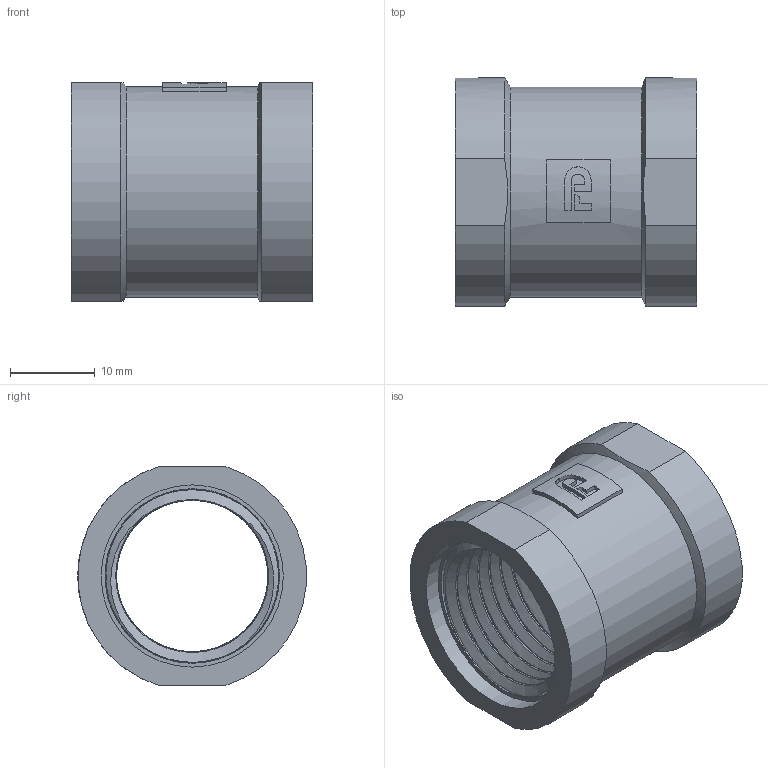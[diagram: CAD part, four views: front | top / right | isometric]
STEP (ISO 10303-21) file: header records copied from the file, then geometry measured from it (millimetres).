
FILE_DESCRIPTION(/* description */ (''),/* implementation_level */ '2;1');
FILE_NAME(/* name */ 'C:\Users\Doom\Desktop\Фадотех\Резьба\M01 18.03.2020\M01 18.03.2020.stp',/* time_stamp */ '2021-12-22T00:09:12+02:00',/* author */ ('Doom'),/* organization */ (''),/* preprocessor_version */ 'ST-DEVELOPER v18',/* originating_system */ 'Autodesk Inventor 2020',/* authorisation */ '');
FILE_SCHEMA (('AUTOMOTIVE_DESIGN { 1 0 10303 214 3 1 1 }'));
Length unit declared in the file: millimetre
Products named in the file (1): M01 18.03.2020
Bounding box: 28.5 x 26.95 x 25.8 mm (x, y, z)
Volume: 6552.5 mm3; surface area: 9260.2 mm2
Topology: 2 solids, 2 shells, 67 faces, 184 edges, 124 vertices
Faces by surface type: plane 28, cylinder 27, bspline 10, cone 2
Full cylindrical faces by diameter (mm): 17.87 x13, 20.56 x2, 21.5 x2, 24.8 x1
Entity records: 9452 total; most frequent: CARTESIAN_POINT 7805, ORIENTED_EDGE 360, DIRECTION 293, EDGE_CURVE 180, VERTEX_POINT 122, AXIS2_PLACEMENT_3D 112, EDGE_LOOP 76, LINE 69
